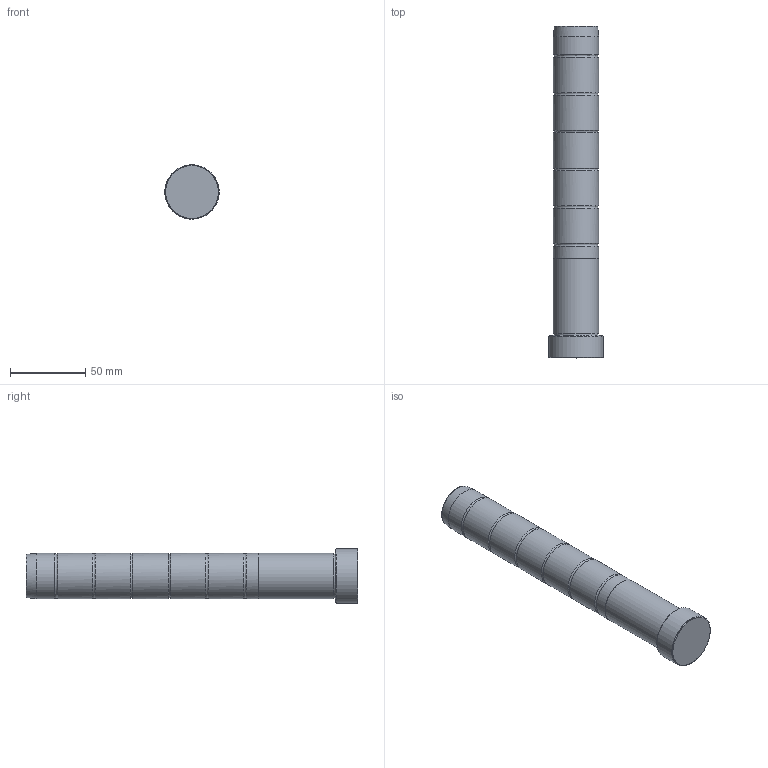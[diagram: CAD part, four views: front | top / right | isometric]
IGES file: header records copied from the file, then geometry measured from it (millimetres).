
Start section: Missler Software BP 521, 31674 Labege Cedex, France Tel   : +33 (0)5 61 00 03 00 Fax   : +33 (0)5 61 00 03 03 Email : sup.topsolid@topsolid.com
Global section: file name: D:\Cuma\24 03 2009\D01\D01_30X220.igs; native system: TopSolid v605250 Missler Software; preprocessor: IGES preprocessor v100000; date: 030101.004501; units: millimetre
Bounding box: 35.97 x 220 x 36 mm (x, y, z)
Surface area: 23165.1 mm2 (no closed solid volume)
Topology: 0 solids, 0 shells, 25 faces, 343 edges, 324 vertices
Faces by surface type: bspline 25
